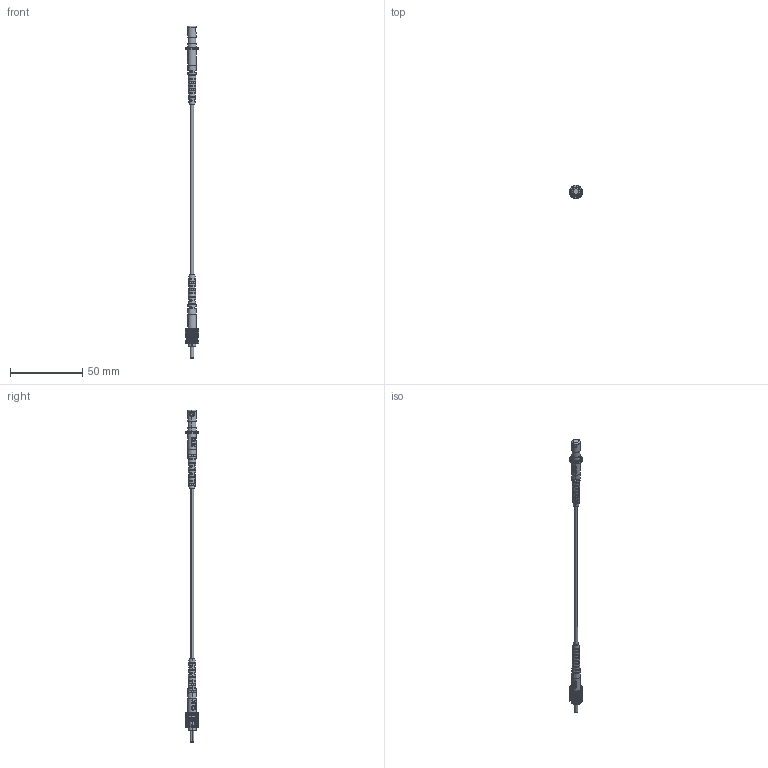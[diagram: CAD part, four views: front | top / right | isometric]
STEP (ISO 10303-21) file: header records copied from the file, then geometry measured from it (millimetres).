
FILE_DESCRIPTION (( 'STEP AP214' ), '1' );
FILE_NAME ('PRB-PF1-TP2.STEP', '2016-01-01T00:31:26', ( 'Daryl' ), ( 'Microsoft' ), 'SwSTEP 2.0', 'SolidWorks 2014', '' );
FILE_SCHEMA (( 'AUTOMOTIVE_DESIGN' ));
Length unit declared in the file: millimetre
Products named in the file (1): PRB-PF1-TP2
Bounding box: 9.02 x 9.02 x 229.5 mm (x, y, z)
Surface area: 4645.2 mm2 (no closed solid volume)
Topology: 0 solids, 11 shells, 729 faces, 2231 edges, 1458 vertices
Faces by surface type: plane 397, cylinder 279, bspline 31, cone 14, torus 8
Entity records: 35804 total; most frequent: CARTESIAN_POINT 8312, ORIENTED_EDGE 4297, DIRECTION 3767, EDGE_CURVE 2229, VERTEX_POINT 1458, LINE 1321, VECTOR 1321, AXIS2_PLACEMENT_3D 1223
